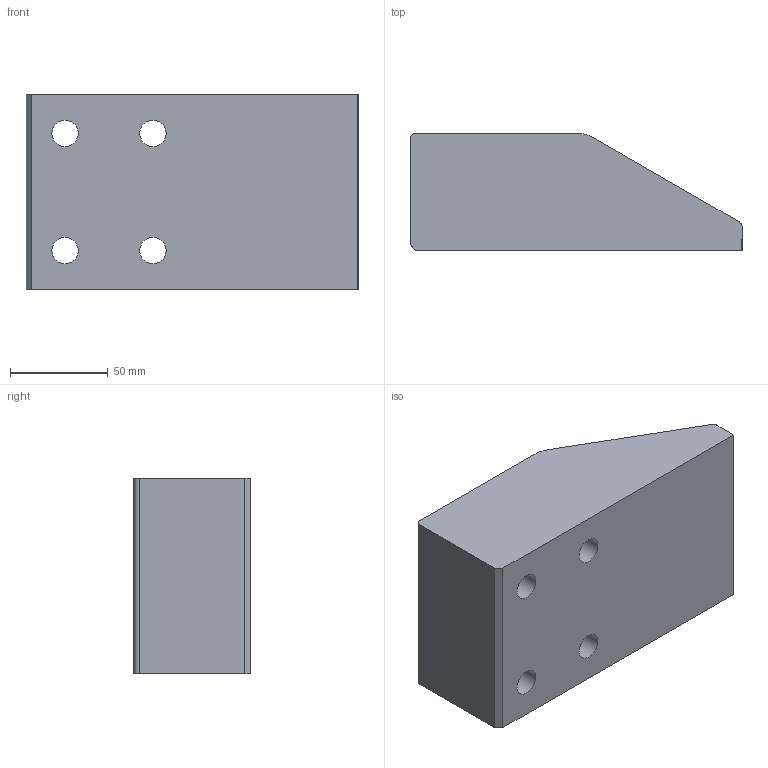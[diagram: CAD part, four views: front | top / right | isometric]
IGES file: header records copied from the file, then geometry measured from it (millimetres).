
Start section: Data from Parasolid IGES Translator 20.0.26, Copyright(c) 2006 Siemens P LM Software. All Rights Reserved.
Global section: file name: G228-01-10017060.igs; native system: By Siemens PLM Incorporated; preprocessor: XPlus GENERIC/IGES 20.0.26; author: Noname; organization: Noname; date: 20190710.094554; units: millimetre
Bounding box: 170 x 60 x 100 mm (x, y, z)
Surface area: 71353.7 mm2 (no closed solid volume)
Topology: 0 solids, 0 shells, 27 faces, 118 edges, 94 vertices
Faces by surface type: revolution 15, extrusion 12
